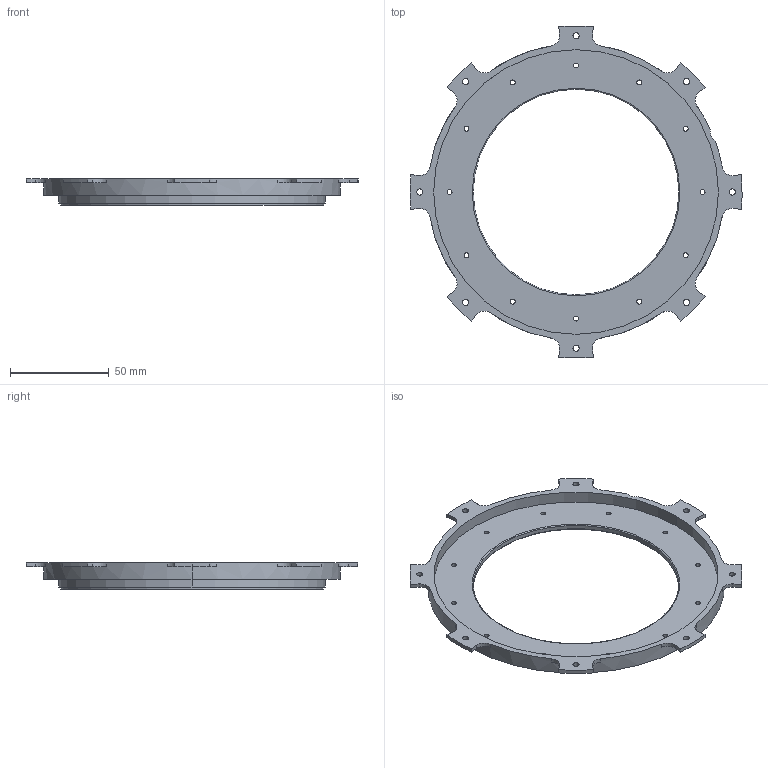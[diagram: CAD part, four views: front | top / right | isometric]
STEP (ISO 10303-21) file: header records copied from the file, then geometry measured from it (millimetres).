
FILE_DESCRIPTION (( 'STEP AP203' ), '1' );
FILE_NAME ('polarizer-holder-V2.STEP', '2024-07-01T06:42:39', ( '' ), ( '' ), 'SwSTEP 2.0', 'SolidWorks 2021', '' );
FILE_SCHEMA (( 'CONFIG_CONTROL_DESIGN' ));
Length unit declared in the file: millimetre
Products named in the file (1): polarizer-holder-V2
Bounding box: 167.95 x 167.9 x 13.2 mm (x, y, z)
Volume: 46256.7 mm3; surface area: 33900.7 mm2
Topology: 1 solids, 1 shells, 123 faces, 341 edges, 226 vertices
Faces by surface type: cylinder 87, plane 32, torus 4
Entity records: 4202 total; most frequent: DIRECTION 787, CARTESIAN_POINT 691, ORIENTED_EDGE 682, EDGE_CURVE 341, AXIS2_PLACEMENT_3D 322, VERTEX_POINT 226, CIRCLE 198, EDGE_LOOP 171
